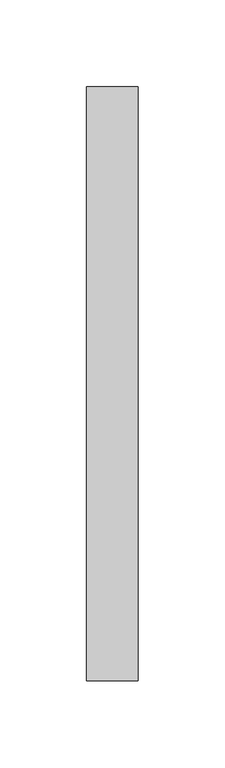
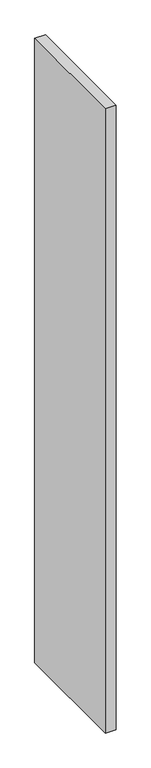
"""IFC4 building model written with IfcOpenShell, lengths in millimetres: furniture geometry, Divisoria_Lateral Fechada : Divisoria_Lateral Fechada_130x180."""

import ifcopenshell
import ifcopenshell.guid

model = None  # the IFC model being written
_history = None  # IfcOwnerHistory: only IFC2X3 demands one
_inside = {}  # id of a spatial element -> (the spatial element, [elements in it])
_under = {}  # id of a project, library or spatial element -> (it, [spatial elements below it])
_declared = {}  # id of a project -> (the project, [libraries it declares])
_typed = {}  # id of a type object -> (the type object, [elements of that type])
_made_of = {}  # id of a material, layer set ... -> (it, [elements and type objects made of it])


def new_model(schema):
    """Start an empty IFC model of exactly this schema.

    Asked for "IFC4X3", IfcOpenShell would pick the latest addendum, in which some entities
    have other attributes; the version numbers below select the first issue.
    IFC2X3 requires an IfcOwnerHistory on every rooted entity: one is made here for all.
    """
    global model, _history
    if schema == "IFC4X3":
        model = ifcopenshell.file(schema_version=(4, 3, 0, 0))
    else:
        model = ifcopenshell.file(schema=schema)
    _inside.clear()
    _under.clear()
    _declared.clear()
    _typed.clear()
    _made_of.clear()
    _history = None
    if model.schema == "IFC2X3":
        org = make("IfcOrganization", Name="unknown")
        user = make(
            "IfcPersonAndOrganization",
            ThePerson=make("IfcPerson", FamilyName="unknown"),
            TheOrganization=org,
        )
        app = make(
            "IfcApplication",
            ApplicationDeveloper=org,
            Version="unknown",
            ApplicationFullName="unknown",
            ApplicationIdentifier="unknown",
        )
        _history = make(
            "IfcOwnerHistory",
            OwningUser=user,
            OwningApplication=app,
            ChangeAction="ADDED",
            CreationDate=0,
        )
    return model


def make(cls, **values):
    """One entity of the class cls with the attributes given. An attribute that is None is left unset."""
    return model.create_entity(
        cls, **{name: value for name, value in values.items() if value is not None}
    )


def rooted(cls, **values):
    """An entity with a GlobalId (a new one), such as an element, a storey or a relation."""
    return make(cls, GlobalId=ifcopenshell.guid.new(), OwnerHistory=_history, **values)


def si_unit(unit_type, name, prefix=None):
    """IfcSIUnit, for example si_unit("LENGTHUNIT", "METRE", prefix="MILLI")."""
    return make("IfcSIUnit", UnitType=unit_type, Prefix=prefix, Name=name)


def assignment(units):
    """IfcUnitAssignment: the units of a project."""
    return None if units is None else make("IfcUnitAssignment", Units=units)


def point(xyz):
    """IfcCartesianPoint."""
    return None if xyz is None else make("IfcCartesianPoint", Coordinates=xyz)


def direction(xyz):
    """IfcDirection."""
    return None if xyz is None else make("IfcDirection", DirectionRatios=xyz)


def frame(location, z_axis=None, x_axis=None):
    """IfcAxis2Placement3D, a coordinate frame: its origin and axes. An axis left out is left unset."""
    return make(
        "IfcAxis2Placement3D",
        Location=point(location),
        Axis=direction(z_axis),
        RefDirection=direction(x_axis),
    )


def origin():
    """The frame at (0, 0, 0) with its axes left unset."""
    return frame((0.0, 0.0, 0.0))


def place(relative_to, where):
    """IfcLocalPlacement: puts the frame where relative to a parent placement (None: the world)."""
    return make(
        "IfcLocalPlacement", PlacementRelTo=relative_to, RelativePlacement=where
    )


def context(
    kind, dimensions, precision=None, world=None, true_north=None, identifier=None
):
    """IfcGeometricRepresentationContext, for example the 3D "Model" context."""
    return make(
        "IfcGeometricRepresentationContext",
        ContextIdentifier=identifier,
        ContextType=kind,
        CoordinateSpaceDimension=dimensions,
        Precision=precision,
        WorldCoordinateSystem=world,
        TrueNorth=true_north,
    )


def project(units=None, contexts=None):
    """IfcProject with its units and contexts."""
    return rooted(
        "IfcProject",
        Name="project",
        RepresentationContexts=contexts,
        UnitsInContext=assignment(units),
    )


def spatial(cls, under=None, at=None, **own):
    """A site, building, storey or space (cls), placed at a placement, below another one or the project."""
    s = rooted(cls, ObjectPlacement=at, **own)
    if under is not None:
        _under.setdefault(under.id(), (under, []))[1].append(s)
    return s


def polyline(points):
    """IfcPolyline through the points."""
    return make("IfcPolyline", Points=[point(p) for p in points])


def outline(outer, holes=None, kind="AREA"):
    """IfcArbitraryClosedProfileDef: a profile drawn as a closed curve; with holes, ...WithVoids."""
    if holes is None:
        return make("IfcArbitraryClosedProfileDef", ProfileType=kind, OuterCurve=outer)
    return make(
        "IfcArbitraryProfileDefWithVoids",
        ProfileType=kind,
        OuterCurve=outer,
        InnerCurves=holes,
    )


def extrude(swept, where, along, depth):
    """IfcExtrudedAreaSolid: the profile swept, set in the frame where, extruded along a direction by depth."""
    return make(
        "IfcExtrudedAreaSolid",
        SweptArea=swept,
        Position=where,
        ExtrudedDirection=direction(along),
        Depth=depth,
    )


def shape(context_of_items, identifier, shape_type, items):
    """IfcShapeRepresentation: the items that make up one representation, for example the "Body"."""
    return make(
        "IfcShapeRepresentation",
        ContextOfItems=context_of_items,
        RepresentationIdentifier=identifier,
        RepresentationType=shape_type,
        Items=items,
    )


def source(mapping_origin, context_of_items, identifier, shape_type, items):
    """IfcRepresentationMap: a shape defined once, which mapped items show again and again."""
    return make(
        "IfcRepresentationMap",
        MappingOrigin=mapping_origin,
        MappedRepresentation=shape(context_of_items, identifier, shape_type, items),
    )


def transform(
    local_origin,
    x_axis=None,
    y_axis=None,
    z_axis=None,
    scale=None,
    scale2=None,
    scale3=None,
    uniform=True,
):
    """IfcCartesianTransformationOperator3D, or its non-uniform kind. x_axis, y_axis, z_axis: its Axis1, 2, 3."""
    if uniform:
        return make(
            "IfcCartesianTransformationOperator3D",
            Axis1=direction(x_axis),
            Axis2=direction(y_axis),
            LocalOrigin=point(local_origin),
            Scale=scale,
            Axis3=direction(z_axis),
        )
    return make(
        "IfcCartesianTransformationOperator3DnonUniform",
        Axis1=direction(x_axis),
        Axis2=direction(y_axis),
        LocalOrigin=point(local_origin),
        Scale=scale,
        Axis3=direction(z_axis),
        Scale2=scale2,
        Scale3=scale3,
    )


def mapped(mapping_source, mapping_target):
    """IfcMappedItem: shows the shape of a source again, moved by a transform."""
    return make(
        "IfcMappedItem", MappingSource=mapping_source, MappingTarget=mapping_target
    )


def made_of(thing, what):
    """Note that an element or type object is made of a material, layer set ...; save() writes the relation."""
    if what is not None:
        _made_of.setdefault(what.id(), (what, []))[1].append(thing)
    return thing


def element(
    cls,
    number,
    at=None,
    inside=None,
    cuts=None,
    type_object=None,
    material=None,
    context=None,
    identifier="Body",
    shape_type=None,
    held_by="IfcProductDefinitionShape",
    body=None,
    shapes=None,
    **own,
):
    """One element of the class cls, such as IfcWall. Its Tag is "e" and its number.

    at: its placement. inside: the storey or other place that contains it. cuts: it is an
    opening in that element (IfcRelVoidsElement). A single representation is given by context,
    identifier, shape_type and body (its items); several are given by shapes. held_by: the class
    of the entity that holds the representations. save() writes the other relations.
    """
    e = rooted(cls, Tag="e%d" % number, ObjectPlacement=at, **own)
    if body is not None:
        shapes = [shape(context, identifier, shape_type, body)]
    if shapes is not None:
        e.Representation = make(held_by, Representations=shapes)
    if inside is not None:
        _inside.setdefault(inside.id(), (inside, []))[1].append(e)
    if cuts is not None:
        rooted(
            "IfcRelVoidsElement", RelatingBuildingElement=cuts, RelatedOpeningElement=e
        )
    if type_object is not None:
        _typed.setdefault(type_object.id(), (type_object, []))[1].append(e)
    return made_of(e, material)


def aggregate(whole, parts):
    """IfcRelAggregates: a whole, such as a stair, and the parts it consists of."""
    return rooted("IfcRelAggregates", RelatingObject=whole, RelatedObjects=parts)


def save(model, path):
    """Write the relations noted so far, then the file.

    IfcRelAggregates (storeys below a building ...), IfcRelContainedInSpatialStructure (elements
    in a storey), IfcRelDefinesByType, IfcRelAssociatesMaterial and IfcRelDeclares: one each for
    every whole, place, type object, material and project.
    """
    for whole, parts in _under.values():
        aggregate(whole, parts)
    for where, things in _inside.values():
        rooted(
            "IfcRelContainedInSpatialStructure",
            RelatedElements=things,
            RelatingStructure=where,
        )
    for kind, things in _typed.values():
        rooted("IfcRelDefinesByType", RelatedObjects=things, RelatingType=kind)
    for what, things in _made_of.values():
        rooted("IfcRelAssociatesMaterial", RelatedObjects=things, RelatingMaterial=what)
    for by, libraries in _declared.values():
        rooted("IfcRelDeclares", RelatingContext=by, RelatedDefinitions=libraries)
    model.write(path)


def furniture_616dd68d(model_context):
    return source(origin(), model_context, "Body", "SweptSolid", [
        extrude(outline(polyline([(59.7003264, -50.0), (29.7003264, -50.0), (29.7003264, 293.3256195), (59.7003264, 293.3256195), (59.7003264, -50.0)])), frame((0.0, 0.0, 50.0), z_axis=(0.0, 0.0, 1.0), x_axis=(1.0, 0.0, 0.0)), (0.0, 0.0, 1.0), 1850.0),
    ])


if __name__ == "__main__":
    model = new_model("IFC4")
    model_context = context("Model", 3, world=origin())
    ifc_project = project(units=[si_unit("LENGTHUNIT", "METRE", prefix="MILLI")], contexts=[model_context])
    site = spatial("IfcSite", under=ifc_project)
    building = spatial("IfcBuilding", under=site)
    placement = place(None, origin())
    furniture_shape = furniture_616dd68d(model_context)
    element("IfcFurniture", 1, ObjectType="Divisoria_Lateral Fechada : Divisoria_Lateral Fechada_130x180", at=placement, inside=building, context=model_context, shape_type="MappedRepresentation", body=[
        mapped(furniture_shape, transform((0.0, 0.0, 0.0), x_axis=(1.0, 0.0, 0.0), y_axis=(0.0, 1.0, 0.0), z_axis=(0.0, 0.0, 1.0))),
    ])
    save(model, "model.ifc")
